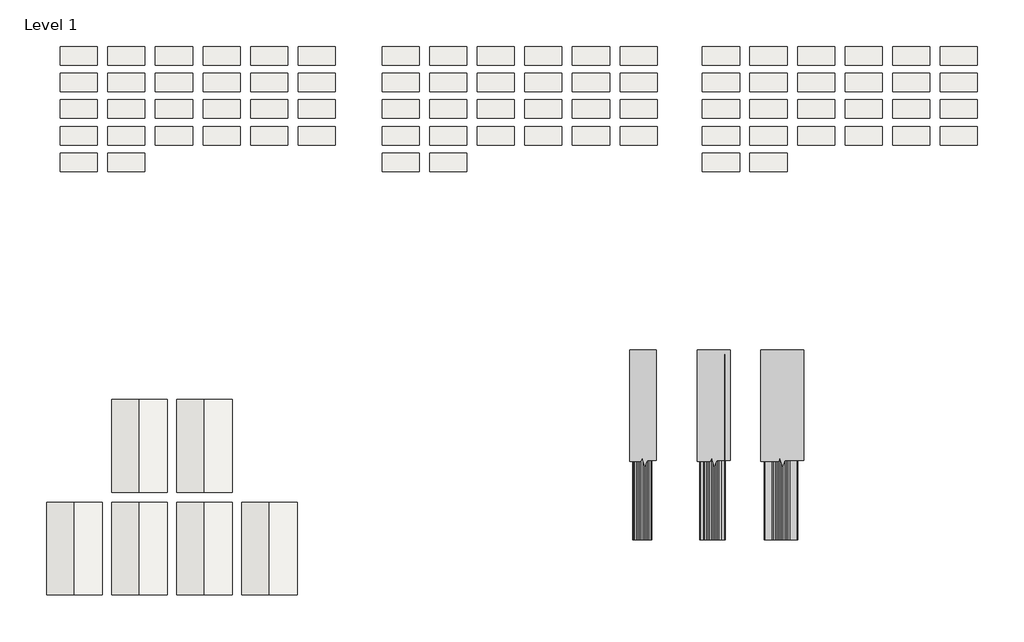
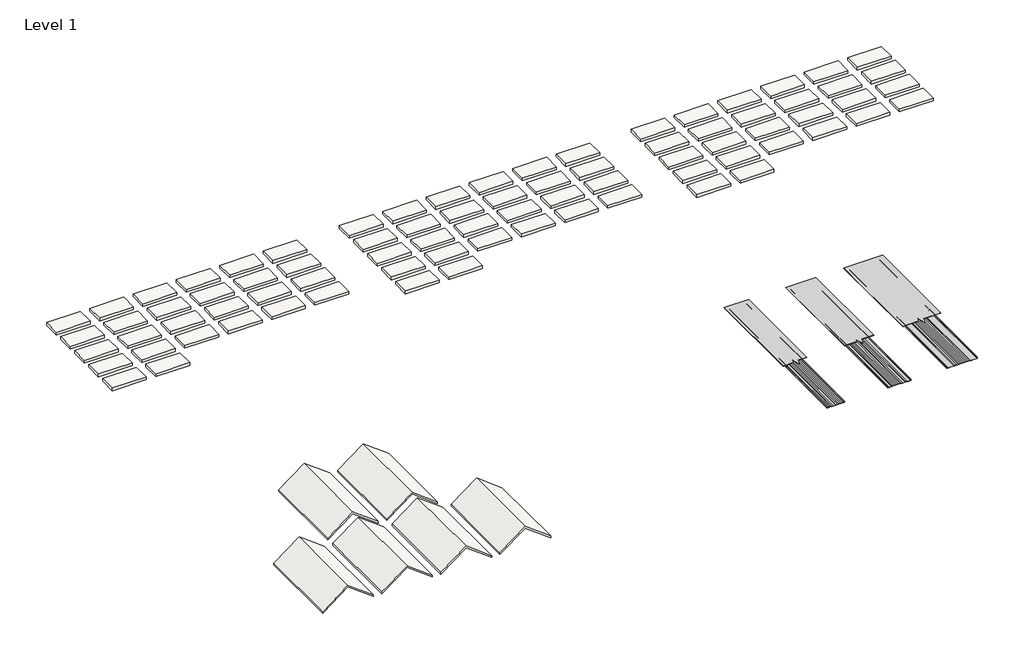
# One storey: 78 slabs, 6 proxies, 6 roofs.
"""IFC4 building model written with IfcOpenShell, lengths in millimetres."""

from ifc_helpers import new_model, si_unit, frame, origin, place, context, project, spatial, polyline, outline, extrude, transform, mapped, element, save
from components import section_mask1_section_mask_b22d5716, section_mask2_section_mask_adec629a, section_mask3_section_mask_f949df2c, proxy_a87bcd5d, proxy_86c54d77, proxy_80b159a8

model = new_model("IFC4")

# Units and contexts
model_context = context("Model", 3, world=origin())
ifc_project = project(units=[si_unit("LENGTHUNIT", "METRE", prefix="MILLI")], contexts=[model_context])

# Site, building, storey
site = spatial("IfcSite", under=ifc_project)
building = spatial("IfcBuilding", under=site)
storey = spatial("IfcBuildingStorey", under=building, Name="Level 1", Elevation=0.0)

# Proxies
placement = place(None, origin())
section_mask1_section_mask_shape = section_mask1_section_mask_b22d5716(model_context)
element("IfcBuildingElementProxy", 1, Name="Section Mask1 : Section Mask", ObjectType="Section Mask1 : Section Mask", at=placement, inside=storey, context=model_context, shape_type="MappedRepresentation", body=[
    mapped(section_mask1_section_mask_shape, transform((-2398.5062028, 52.6895817, -14.2875), x_axis=(1.0, 0.0, 0.0), y_axis=(0.0, 1.0, 0.0), z_axis=(0.0, 0.0, 1.0))),
])
section_mask2_section_mask_shape = section_mask2_section_mask_adec629a(model_context)
element("IfcBuildingElementProxy", 2, Name="Section Mask2 : Section Mask", ObjectType="Section Mask2 : Section Mask", at=placement, inside=storey, context=model_context, shape_type="MappedRepresentation", body=[
    mapped(section_mask2_section_mask_shape, transform((-1280.9062028, 52.6895817, -14.2875), x_axis=(1.0, 0.0, 0.0), y_axis=(0.0, 1.0, 0.0), z_axis=(0.0, 0.0, 1.0))),
])
section_mask3_section_mask_shape = section_mask3_section_mask_f949df2c(model_context)
element("IfcBuildingElementProxy", 3, Name="Section Mask3 : Section Mask", ObjectType="Section Mask3 : Section Mask", at=placement, inside=storey, context=model_context, shape_type="MappedRepresentation", body=[
    mapped(section_mask3_section_mask_shape, transform((-3541.5062028, 52.6895817, -14.2875), x_axis=(1.0, 0.0, 0.0), y_axis=(0.0, 1.0, 0.0), z_axis=(0.0, 0.0, 1.0))),
])
proxy_shape = proxy_a87bcd5d(model_context)
element("IfcBuildingElementProxy", 4, Name="Select-Seam_Narrow-Batten_Roofing_Panel_AEP_Span : 12\" Select Seam - Narrow Batten Roofing - 22ga", ObjectType="Select-Seam_Narrow-Batten_Roofing_Panel_AEP_Span : 12\" Select Seam - Narrow Batten Roofing - 22ga", at=placement, inside=storey, context=model_context, shape_type="MappedRepresentation", body=[
    mapped(proxy_shape, transform((4608.2102861, 2442.227806, 0.0), x_axis=(1.0, 0.0, 0.0), y_axis=(0.0, 1.0, 0.0), z_axis=(0.0, 0.0, 1.0))),
])
proxy_2_shape = proxy_86c54d77(model_context)
element("IfcBuildingElementProxy", 5, Name="Select-Seam_Narrow-Batten_Roofing_Panel_AEP_Span : 16\" Select Seam - Narrow Batten Roofing - 22ga", ObjectType="Select-Seam_Narrow-Batten_Roofing_Panel_AEP_Span : 16\" Select Seam - Narrow Batten Roofing - 22ga", at=placement, inside=storey, context=model_context, shape_type="MappedRepresentation", body=[
    mapped(proxy_2_shape, transform((5758.6489931, 2442.227806, 0.0), x_axis=(1.0, 0.0, 0.0), y_axis=(0.0, 1.0, 0.0), z_axis=(0.0, 0.0, 1.0))),
])
proxy_3_shape = proxy_80b159a8(model_context)
element("IfcBuildingElementProxy", 6, Name="Select-Seam_Narrow-Batten_Roofing_Panel_AEP_Span : 21 1/4\" Select Seam - Narrow Batten Roofing - 22ga", ObjectType="Select-Seam_Narrow-Batten_Roofing_Panel_AEP_Span : 21 1/4\" Select Seam - Narrow Batten Roofing - 22ga", at=placement, inside=storey, context=model_context, shape_type="MappedRepresentation", body=[
    mapped(proxy_3_shape, transform((6887.7832797, 2442.227806, 0.0), x_axis=(1.0, 0.0, 0.0), y_axis=(0.0, 1.0, 0.0), z_axis=(0.0, 0.0, 1.0))),
])

# Roofs
element("IfcRoof", 7, ObjectType="12\" Select Seam - Narrow Batten Roofing - 22ga", at=placement, inside=storey, context=model_context, shape_type="SweptSolid", body=[
    extrude(outline(polyline([(31.75, -3190.4750229), (374.65, -3647.6750229), (31.75, -4104.8750229), (0.0, -4104.8750229), (342.9, -3647.6750229), (0.0, -3190.4750229), (31.75, -3190.4750229)])), frame((0.0, 178.6584683, 0.0), z_axis=(0.0, 1.0, 0.0), x_axis=(0.0, 0.0, 1.0)), (0.0, 0.0, 1.0), 1524.0),
])
element("IfcRoof", 8, ObjectType="12\" Select Seam - Narrow Batten Roofing - 24ga", at=placement, inside=storey, context=model_context, shape_type="SweptSolid", body=[
    extrude(outline(polyline([(31.75, -2123.6750229), (374.65, -2580.8750229), (31.75, -3038.0750229), (0.0, -3038.0750229), (342.9, -2580.8750229), (0.0, -2123.6750229), (31.75, -2123.6750229)])), frame((0.0, 178.6584683, 0.0), z_axis=(0.0, 1.0, 0.0), x_axis=(0.0, 0.0, 1.0)), (0.0, 0.0, 1.0), 1524.0),
])
element("IfcRoof", 9, ObjectType="16\" Select Seam - Narrow Batten Roofing - 22ga", at=placement, inside=storey, context=model_context, shape_type="SweptSolid", body=[
    extrude(outline(polyline([(31.75, -4257.2750229), (374.65, -4714.4750229), (31.75, -5171.6750229), (0.0, -5171.6750229), (342.9, -4714.4750229), (0.0, -4257.2750229), (31.75, -4257.2750229)])), frame((0.0, -1510.2262262, 0.0), z_axis=(0.0, 1.0, 0.0), x_axis=(0.0, 0.0, 1.0)), (0.0, 0.0, 1.0), 1524.0),
])
element("IfcRoof", 10, ObjectType="16\" Select Seam - Narrow Batten Roofing - 24ga", at=placement, inside=storey, context=model_context, shape_type="SweptSolid", body=[
    extrude(outline(polyline([(31.75, -3190.4750229), (374.65, -3647.6750229), (31.75, -4104.8750229), (0.0, -4104.8750229), (342.9, -3647.6750229), (0.0, -3190.4750229), (31.75, -3190.4750229)])), frame((0.0, -1510.2262262, 0.0), z_axis=(0.0, 1.0, 0.0), x_axis=(0.0, 0.0, 1.0)), (0.0, 0.0, 1.0), 1524.0),
])
element("IfcRoof", 11, ObjectType="21 1/4\" Select Seam - Narrow Batten Roofing - 22ga", at=placement, inside=storey, context=model_context, shape_type="SweptSolid", body=[
    extrude(outline(polyline([(31.75, -2123.6750229), (374.65, -2580.8750229), (31.75, -3038.0750229), (0.0, -3038.0750229), (342.9, -2580.8750229), (0.0, -2123.6750229), (31.75, -2123.6750229)])), frame((0.0, -1510.2262262, 0.0), z_axis=(0.0, 1.0, 0.0), x_axis=(0.0, 0.0, 1.0)), (0.0, 0.0, 1.0), 1524.0),
])
element("IfcRoof", 12, ObjectType="21 1/4\" Select Seam - Narrow Batten Roofing - 24ga", at=placement, inside=storey, context=model_context, shape_type="SweptSolid", body=[
    extrude(outline(polyline([(31.75, -1056.8750229), (374.65, -1514.0750229), (31.75, -1971.2750229), (0.0, -1971.2750229), (342.9, -1514.0750229), (0.0, -1056.8750229), (31.75, -1056.8750229)])), frame((0.0, -1510.2262262, 0.0), z_axis=(0.0, 1.0, 0.0), x_axis=(0.0, 0.0, 1.0)), (0.0, 0.0, 1.0), 1524.0),
])

# Slabs
element("IfcSlab", 13, ObjectType="AEP Span Color Sample", at=placement, inside=storey, context=model_context, shape_type="SweptSolid", body=[
    extrude(outline(polyline([(-4336.915334, 7196.0746889), (-4946.515334, 7196.0746889), (-4946.515334, 7500.8746889), (-4336.915334, 7500.8746889), (-4336.915334, 7196.0746889)])), frame((0.0, 0.0, -50.8), z_axis=(0.0, 0.0, 1.0), x_axis=(1.0, 0.0, 0.0)), (0.0, 0.0, 1.0), 50.8),
])
element("IfcSlab", 14, ObjectType="AEP Span Color Sample", at=placement, inside=storey, context=model_context, shape_type="SweptSolid", body=[
    extrude(outline(polyline([(-3555.865334, 7196.0746889), (-4165.465334, 7196.0746889), (-4165.465334, 7500.8746889), (-3555.865334, 7500.8746889), (-3555.865334, 7196.0746889)])), frame((0.0, 0.0, -50.8), z_axis=(0.0, 0.0, 1.0), x_axis=(1.0, 0.0, 0.0)), (0.0, 0.0, 1.0), 50.8),
])
element("IfcSlab", 15, ObjectType="AEP Span Color Sample", at=placement, inside=storey, context=model_context, shape_type="SweptSolid", body=[
    extrude(outline(polyline([(-2774.815334, 7196.0746889), (-3384.415334, 7196.0746889), (-3384.415334, 7500.8746889), (-2774.815334, 7500.8746889), (-2774.815334, 7196.0746889)])), frame((0.0, 0.0, -50.8), z_axis=(0.0, 0.0, 1.0), x_axis=(1.0, 0.0, 0.0)), (0.0, 0.0, 1.0), 50.8),
])
element("IfcSlab", 16, ObjectType="AEP Span Color Sample", at=placement, inside=storey, context=model_context, shape_type="SweptSolid", body=[
    extrude(outline(polyline([(-1993.765334, 7196.0746889), (-2603.365334, 7196.0746889), (-2603.365334, 7500.8746889), (-1993.765334, 7500.8746889), (-1993.765334, 7196.0746889)])), frame((0.0, 0.0, -50.8), z_axis=(0.0, 0.0, 1.0), x_axis=(1.0, 0.0, 0.0)), (0.0, 0.0, 1.0), 50.8),
])
element("IfcSlab", 17, ObjectType="AEP Span Color Sample", at=placement, inside=storey, context=model_context, shape_type="SweptSolid", body=[
    extrude(outline(polyline([(-1212.715334, 7196.0746889), (-1822.315334, 7196.0746889), (-1822.315334, 7500.8746889), (-1212.715334, 7500.8746889), (-1212.715334, 7196.0746889)])), frame((0.0, 0.0, -50.8), z_axis=(0.0, 0.0, 1.0), x_axis=(1.0, 0.0, 0.0)), (0.0, 0.0, 1.0), 50.8),
])
element("IfcSlab", 18, ObjectType="AEP Span Color Sample", at=placement, inside=storey, context=model_context, shape_type="SweptSolid", body=[
    extrude(outline(polyline([(-431.665334, 7196.0746889), (-1041.265334, 7196.0746889), (-1041.265334, 7500.8746889), (-431.665334, 7500.8746889), (-431.665334, 7196.0746889)])), frame((0.0, 0.0, -50.8), z_axis=(0.0, 0.0, 1.0), x_axis=(1.0, 0.0, 0.0)), (0.0, 0.0, 1.0), 50.8),
])
element("IfcSlab", 19, ObjectType="AEP Span Color Sample", at=placement, inside=storey, context=model_context, shape_type="SweptSolid", body=[
    extrude(outline(polyline([(-4336.915334, 6757.9246889), (-4946.515334, 6757.9246889), (-4946.515334, 7062.7246889), (-4336.915334, 7062.7246889), (-4336.915334, 6757.9246889)])), frame((0.0, 0.0, -50.8), z_axis=(0.0, 0.0, 1.0), x_axis=(1.0, 0.0, 0.0)), (0.0, 0.0, 1.0), 50.8),
])
element("IfcSlab", 20, ObjectType="AEP Span Color Sample", at=placement, inside=storey, context=model_context, shape_type="SweptSolid", body=[
    extrude(outline(polyline([(-3555.865334, 6757.9246889), (-4165.465334, 6757.9246889), (-4165.465334, 7062.7246889), (-3555.865334, 7062.7246889), (-3555.865334, 6757.9246889)])), frame((0.0, 0.0, -50.8), z_axis=(0.0, 0.0, 1.0), x_axis=(1.0, 0.0, 0.0)), (0.0, 0.0, 1.0), 50.8),
])
element("IfcSlab", 21, ObjectType="AEP Span Color Sample", at=placement, inside=storey, context=model_context, shape_type="SweptSolid", body=[
    extrude(outline(polyline([(-2774.815334, 6757.9246889), (-3384.415334, 6757.9246889), (-3384.415334, 7062.7246889), (-2774.815334, 7062.7246889), (-2774.815334, 6757.9246889)])), frame((0.0, 0.0, -50.8), z_axis=(0.0, 0.0, 1.0), x_axis=(1.0, 0.0, 0.0)), (0.0, 0.0, 1.0), 50.8),
])
element("IfcSlab", 22, ObjectType="AEP Span Color Sample", at=placement, inside=storey, context=model_context, shape_type="SweptSolid", body=[
    extrude(outline(polyline([(-1993.765334, 6757.9246889), (-2603.365334, 6757.9246889), (-2603.365334, 7062.7246889), (-1993.765334, 7062.7246889), (-1993.765334, 6757.9246889)])), frame((0.0, 0.0, -50.8), z_axis=(0.0, 0.0, 1.0), x_axis=(1.0, 0.0, 0.0)), (0.0, 0.0, 1.0), 50.8),
])
element("IfcSlab", 23, ObjectType="AEP Span Color Sample", at=placement, inside=storey, context=model_context, shape_type="SweptSolid", body=[
    extrude(outline(polyline([(-1212.715334, 6757.9246889), (-1822.315334, 6757.9246889), (-1822.315334, 7062.7246889), (-1212.715334, 7062.7246889), (-1212.715334, 6757.9246889)])), frame((0.0, 0.0, -50.8), z_axis=(0.0, 0.0, 1.0), x_axis=(1.0, 0.0, 0.0)), (0.0, 0.0, 1.0), 50.8),
])
element("IfcSlab", 24, ObjectType="AEP Span Color Sample", at=placement, inside=storey, context=model_context, shape_type="SweptSolid", body=[
    extrude(outline(polyline([(-431.665334, 6757.9246889), (-1041.265334, 6757.9246889), (-1041.265334, 7062.7246889), (-431.665334, 7062.7246889), (-431.665334, 6757.9246889)])), frame((0.0, 0.0, -50.8), z_axis=(0.0, 0.0, 1.0), x_axis=(1.0, 0.0, 0.0)), (0.0, 0.0, 1.0), 50.8),
])
element("IfcSlab", 25, ObjectType="AEP Span Color Sample", at=placement, inside=storey, context=model_context, shape_type="SweptSolid", body=[
    extrude(outline(polyline([(-4336.915334, 6319.7746889), (-4946.515334, 6319.7746889), (-4946.515334, 6624.5746889), (-4336.915334, 6624.5746889), (-4336.915334, 6319.7746889)])), frame((0.0, 0.0, -50.8), z_axis=(0.0, 0.0, 1.0), x_axis=(1.0, 0.0, 0.0)), (0.0, 0.0, 1.0), 50.8),
])
element("IfcSlab", 26, ObjectType="AEP Span Color Sample", at=placement, inside=storey, context=model_context, shape_type="SweptSolid", body=[
    extrude(outline(polyline([(-3555.865334, 6319.7746889), (-4165.465334, 6319.7746889), (-4165.465334, 6624.5746889), (-3555.865334, 6624.5746889), (-3555.865334, 6319.7746889)])), frame((0.0, 0.0, -50.8), z_axis=(0.0, 0.0, 1.0), x_axis=(1.0, 0.0, 0.0)), (0.0, 0.0, 1.0), 50.8),
])
element("IfcSlab", 27, ObjectType="AEP Span Color Sample", at=placement, inside=storey, context=model_context, shape_type="SweptSolid", body=[
    extrude(outline(polyline([(-2774.815334, 6319.7746889), (-3384.415334, 6319.7746889), (-3384.415334, 6624.5746889), (-2774.815334, 6624.5746889), (-2774.815334, 6319.7746889)])), frame((0.0, 0.0, -50.8), z_axis=(0.0, 0.0, 1.0), x_axis=(1.0, 0.0, 0.0)), (0.0, 0.0, 1.0), 50.8),
])
element("IfcSlab", 28, ObjectType="AEP Span Color Sample", at=placement, inside=storey, context=model_context, shape_type="SweptSolid", body=[
    extrude(outline(polyline([(-1993.765334, 6319.7746889), (-2603.365334, 6319.7746889), (-2603.365334, 6624.5746889), (-1993.765334, 6624.5746889), (-1993.765334, 6319.7746889)])), frame((0.0, 0.0, -50.8), z_axis=(0.0, 0.0, 1.0), x_axis=(1.0, 0.0, 0.0)), (0.0, 0.0, 1.0), 50.8),
])
element("IfcSlab", 29, ObjectType="AEP Span Color Sample", at=placement, inside=storey, context=model_context, shape_type="SweptSolid", body=[
    extrude(outline(polyline([(-1212.715334, 6319.7746889), (-1822.315334, 6319.7746889), (-1822.315334, 6624.5746889), (-1212.715334, 6624.5746889), (-1212.715334, 6319.7746889)])), frame((0.0, 0.0, -50.8), z_axis=(0.0, 0.0, 1.0), x_axis=(1.0, 0.0, 0.0)), (0.0, 0.0, 1.0), 50.8),
])
element("IfcSlab", 30, ObjectType="AEP Span Color Sample", at=placement, inside=storey, context=model_context, shape_type="SweptSolid", body=[
    extrude(outline(polyline([(-431.665334, 6319.7746889), (-1041.265334, 6319.7746889), (-1041.265334, 6624.5746889), (-431.665334, 6624.5746889), (-431.665334, 6319.7746889)])), frame((0.0, 0.0, -50.8), z_axis=(0.0, 0.0, 1.0), x_axis=(1.0, 0.0, 0.0)), (0.0, 0.0, 1.0), 50.8),
])
element("IfcSlab", 31, ObjectType="AEP Span Color Sample", at=placement, inside=storey, context=model_context, shape_type="SweptSolid", body=[
    extrude(outline(polyline([(-4336.915334, 5881.6246889), (-4946.515334, 5881.6246889), (-4946.515334, 6186.4246889), (-4336.915334, 6186.4246889), (-4336.915334, 5881.6246889)])), frame((0.0, 0.0, -50.8), z_axis=(0.0, 0.0, 1.0), x_axis=(1.0, 0.0, 0.0)), (0.0, 0.0, 1.0), 50.8),
])
element("IfcSlab", 32, ObjectType="AEP Span Color Sample", at=placement, inside=storey, context=model_context, shape_type="SweptSolid", body=[
    extrude(outline(polyline([(-3555.865334, 5881.6246889), (-4165.465334, 5881.6246889), (-4165.465334, 6186.4246889), (-3555.865334, 6186.4246889), (-3555.865334, 5881.6246889)])), frame((0.0, 0.0, -50.8), z_axis=(0.0, 0.0, 1.0), x_axis=(1.0, 0.0, 0.0)), (0.0, 0.0, 1.0), 50.8),
])
element("IfcSlab", 33, ObjectType="AEP Span Color Sample", at=placement, inside=storey, context=model_context, shape_type="SweptSolid", body=[
    extrude(outline(polyline([(-2774.815334, 5881.6246889), (-3384.415334, 5881.6246889), (-3384.415334, 6186.4246889), (-2774.815334, 6186.4246889), (-2774.815334, 5881.6246889)])), frame((0.0, 0.0, -50.8), z_axis=(0.0, 0.0, 1.0), x_axis=(1.0, 0.0, 0.0)), (0.0, 0.0, 1.0), 50.8),
])
element("IfcSlab", 34, ObjectType="AEP Span Color Sample", at=placement, inside=storey, context=model_context, shape_type="SweptSolid", body=[
    extrude(outline(polyline([(-1993.765334, 5881.6246889), (-2603.365334, 5881.6246889), (-2603.365334, 6186.4246889), (-1993.765334, 6186.4246889), (-1993.765334, 5881.6246889)])), frame((0.0, 0.0, -50.8), z_axis=(0.0, 0.0, 1.0), x_axis=(1.0, 0.0, 0.0)), (0.0, 0.0, 1.0), 50.8),
])
element("IfcSlab", 35, ObjectType="AEP Span Color Sample", at=placement, inside=storey, context=model_context, shape_type="SweptSolid", body=[
    extrude(outline(polyline([(-1212.715334, 5881.6246889), (-1822.315334, 5881.6246889), (-1822.315334, 6186.4246889), (-1212.715334, 6186.4246889), (-1212.715334, 5881.6246889)])), frame((0.0, 0.0, -50.8), z_axis=(0.0, 0.0, 1.0), x_axis=(1.0, 0.0, 0.0)), (0.0, 0.0, 1.0), 50.8),
])
element("IfcSlab", 36, ObjectType="AEP Span Color Sample", at=placement, inside=storey, context=model_context, shape_type="SweptSolid", body=[
    extrude(outline(polyline([(-431.665334, 5881.6246889), (-1041.265334, 5881.6246889), (-1041.265334, 6186.4246889), (-431.665334, 6186.4246889), (-431.665334, 5881.6246889)])), frame((0.0, 0.0, -50.8), z_axis=(0.0, 0.0, 1.0), x_axis=(1.0, 0.0, 0.0)), (0.0, 0.0, 1.0), 50.8),
])
element("IfcSlab", 37, ObjectType="AEP Span Color Sample", at=placement, inside=storey, context=model_context, shape_type="SweptSolid", body=[
    extrude(outline(polyline([(-4336.915334, 5443.4746889), (-4946.515334, 5443.4746889), (-4946.515334, 5748.2746889), (-4336.915334, 5748.2746889), (-4336.915334, 5443.4746889)])), frame((0.0, 0.0, -50.8), z_axis=(0.0, 0.0, 1.0), x_axis=(1.0, 0.0, 0.0)), (0.0, 0.0, 1.0), 50.8),
])
element("IfcSlab", 38, ObjectType="AEP Span Color Sample", at=placement, inside=storey, context=model_context, shape_type="SweptSolid", body=[
    extrude(outline(polyline([(-3555.865334, 5443.4746889), (-4165.465334, 5443.4746889), (-4165.465334, 5748.2746889), (-3555.865334, 5748.2746889), (-3555.865334, 5443.4746889)])), frame((0.0, 0.0, -50.8), z_axis=(0.0, 0.0, 1.0), x_axis=(1.0, 0.0, 0.0)), (0.0, 0.0, 1.0), 50.8),
])
element("IfcSlab", 39, ObjectType="AEP Span Color Sample", at=placement, inside=storey, context=model_context, shape_type="SweptSolid", body=[
    extrude(outline(polyline([(946.284666, 7196.0746889), (336.684666, 7196.0746889), (336.684666, 7500.8746889), (946.284666, 7500.8746889), (946.284666, 7196.0746889)])), frame((0.0, 0.0, -50.8), z_axis=(0.0, 0.0, 1.0), x_axis=(1.0, 0.0, 0.0)), (0.0, 0.0, 1.0), 50.8),
])
element("IfcSlab", 40, ObjectType="AEP Span Color Sample", at=placement, inside=storey, context=model_context, shape_type="SweptSolid", body=[
    extrude(outline(polyline([(1727.334666, 7196.0746889), (1117.734666, 7196.0746889), (1117.734666, 7500.8746889), (1727.334666, 7500.8746889), (1727.334666, 7196.0746889)])), frame((0.0, 0.0, -50.8), z_axis=(0.0, 0.0, 1.0), x_axis=(1.0, 0.0, 0.0)), (0.0, 0.0, 1.0), 50.8),
])
element("IfcSlab", 41, ObjectType="AEP Span Color Sample", at=placement, inside=storey, context=model_context, shape_type="SweptSolid", body=[
    extrude(outline(polyline([(2508.384666, 7196.0746889), (1898.784666, 7196.0746889), (1898.784666, 7500.8746889), (2508.384666, 7500.8746889), (2508.384666, 7196.0746889)])), frame((0.0, 0.0, -50.8), z_axis=(0.0, 0.0, 1.0), x_axis=(1.0, 0.0, 0.0)), (0.0, 0.0, 1.0), 50.8),
])
element("IfcSlab", 42, ObjectType="AEP Span Color Sample", at=placement, inside=storey, context=model_context, shape_type="SweptSolid", body=[
    extrude(outline(polyline([(3289.434666, 7196.0746889), (2679.834666, 7196.0746889), (2679.834666, 7500.8746889), (3289.434666, 7500.8746889), (3289.434666, 7196.0746889)])), frame((0.0, 0.0, -50.8), z_axis=(0.0, 0.0, 1.0), x_axis=(1.0, 0.0, 0.0)), (0.0, 0.0, 1.0), 50.8),
])
element("IfcSlab", 43, ObjectType="AEP Span Color Sample", at=placement, inside=storey, context=model_context, shape_type="SweptSolid", body=[
    extrude(outline(polyline([(4070.484666, 7196.0746889), (3460.884666, 7196.0746889), (3460.884666, 7500.8746889), (4070.484666, 7500.8746889), (4070.484666, 7196.0746889)])), frame((0.0, 0.0, -50.8), z_axis=(0.0, 0.0, 1.0), x_axis=(1.0, 0.0, 0.0)), (0.0, 0.0, 1.0), 50.8),
])
element("IfcSlab", 44, ObjectType="AEP Span Color Sample", at=placement, inside=storey, context=model_context, shape_type="SweptSolid", body=[
    extrude(outline(polyline([(4851.534666, 7196.0746889), (4241.934666, 7196.0746889), (4241.934666, 7500.8746889), (4851.534666, 7500.8746889), (4851.534666, 7196.0746889)])), frame((0.0, 0.0, -50.8), z_axis=(0.0, 0.0, 1.0), x_axis=(1.0, 0.0, 0.0)), (0.0, 0.0, 1.0), 50.8),
])
element("IfcSlab", 45, ObjectType="AEP Span Color Sample", at=placement, inside=storey, context=model_context, shape_type="SweptSolid", body=[
    extrude(outline(polyline([(946.284666, 6757.9246889), (336.684666, 6757.9246889), (336.684666, 7062.7246889), (946.284666, 7062.7246889), (946.284666, 6757.9246889)])), frame((0.0, 0.0, -50.8), z_axis=(0.0, 0.0, 1.0), x_axis=(1.0, 0.0, 0.0)), (0.0, 0.0, 1.0), 50.8),
])
element("IfcSlab", 46, ObjectType="AEP Span Color Sample", at=placement, inside=storey, context=model_context, shape_type="SweptSolid", body=[
    extrude(outline(polyline([(1727.334666, 6757.9246889), (1117.734666, 6757.9246889), (1117.734666, 7062.7246889), (1727.334666, 7062.7246889), (1727.334666, 6757.9246889)])), frame((0.0, 0.0, -50.8), z_axis=(0.0, 0.0, 1.0), x_axis=(1.0, 0.0, 0.0)), (0.0, 0.0, 1.0), 50.8),
])
element("IfcSlab", 47, ObjectType="AEP Span Color Sample", at=placement, inside=storey, context=model_context, shape_type="SweptSolid", body=[
    extrude(outline(polyline([(2508.384666, 6757.9246889), (1898.784666, 6757.9246889), (1898.784666, 7062.7246889), (2508.384666, 7062.7246889), (2508.384666, 6757.9246889)])), frame((0.0, 0.0, -50.8), z_axis=(0.0, 0.0, 1.0), x_axis=(1.0, 0.0, 0.0)), (0.0, 0.0, 1.0), 50.8),
])
element("IfcSlab", 48, ObjectType="AEP Span Color Sample", at=placement, inside=storey, context=model_context, shape_type="SweptSolid", body=[
    extrude(outline(polyline([(3289.434666, 6757.9246889), (2679.834666, 6757.9246889), (2679.834666, 7062.7246889), (3289.434666, 7062.7246889), (3289.434666, 6757.9246889)])), frame((0.0, 0.0, -50.8), z_axis=(0.0, 0.0, 1.0), x_axis=(1.0, 0.0, 0.0)), (0.0, 0.0, 1.0), 50.8),
])
element("IfcSlab", 49, ObjectType="AEP Span Color Sample", at=placement, inside=storey, context=model_context, shape_type="SweptSolid", body=[
    extrude(outline(polyline([(4070.484666, 6757.9246889), (3460.884666, 6757.9246889), (3460.884666, 7062.7246889), (4070.484666, 7062.7246889), (4070.484666, 6757.9246889)])), frame((0.0, 0.0, -50.8), z_axis=(0.0, 0.0, 1.0), x_axis=(1.0, 0.0, 0.0)), (0.0, 0.0, 1.0), 50.8),
])
element("IfcSlab", 50, ObjectType="AEP Span Color Sample", at=placement, inside=storey, context=model_context, shape_type="SweptSolid", body=[
    extrude(outline(polyline([(4851.534666, 6757.9246889), (4241.934666, 6757.9246889), (4241.934666, 7062.7246889), (4851.534666, 7062.7246889), (4851.534666, 6757.9246889)])), frame((0.0, 0.0, -50.8), z_axis=(0.0, 0.0, 1.0), x_axis=(1.0, 0.0, 0.0)), (0.0, 0.0, 1.0), 50.8),
])
element("IfcSlab", 51, ObjectType="AEP Span Color Sample", at=placement, inside=storey, context=model_context, shape_type="SweptSolid", body=[
    extrude(outline(polyline([(946.284666, 6319.7746889), (336.684666, 6319.7746889), (336.684666, 6624.5746889), (946.284666, 6624.5746889), (946.284666, 6319.7746889)])), frame((0.0, 0.0, -50.8), z_axis=(0.0, 0.0, 1.0), x_axis=(1.0, 0.0, 0.0)), (0.0, 0.0, 1.0), 50.8),
])
element("IfcSlab", 52, ObjectType="AEP Span Color Sample", at=placement, inside=storey, context=model_context, shape_type="SweptSolid", body=[
    extrude(outline(polyline([(1727.334666, 6319.7746889), (1117.734666, 6319.7746889), (1117.734666, 6624.5746889), (1727.334666, 6624.5746889), (1727.334666, 6319.7746889)])), frame((0.0, 0.0, -50.8), z_axis=(0.0, 0.0, 1.0), x_axis=(1.0, 0.0, 0.0)), (0.0, 0.0, 1.0), 50.8),
])
element("IfcSlab", 53, ObjectType="AEP Span Color Sample", at=placement, inside=storey, context=model_context, shape_type="SweptSolid", body=[
    extrude(outline(polyline([(2508.384666, 6319.7746889), (1898.784666, 6319.7746889), (1898.784666, 6624.5746889), (2508.384666, 6624.5746889), (2508.384666, 6319.7746889)])), frame((0.0, 0.0, -50.8), z_axis=(0.0, 0.0, 1.0), x_axis=(1.0, 0.0, 0.0)), (0.0, 0.0, 1.0), 50.8),
])
element("IfcSlab", 54, ObjectType="AEP Span Color Sample", at=placement, inside=storey, context=model_context, shape_type="SweptSolid", body=[
    extrude(outline(polyline([(3289.434666, 6319.7746889), (2679.834666, 6319.7746889), (2679.834666, 6624.5746889), (3289.434666, 6624.5746889), (3289.434666, 6319.7746889)])), frame((0.0, 0.0, -50.8), z_axis=(0.0, 0.0, 1.0), x_axis=(1.0, 0.0, 0.0)), (0.0, 0.0, 1.0), 50.8),
])
element("IfcSlab", 55, ObjectType="AEP Span Color Sample", at=placement, inside=storey, context=model_context, shape_type="SweptSolid", body=[
    extrude(outline(polyline([(4070.484666, 6319.7746889), (3460.884666, 6319.7746889), (3460.884666, 6624.5746889), (4070.484666, 6624.5746889), (4070.484666, 6319.7746889)])), frame((0.0, 0.0, -50.8), z_axis=(0.0, 0.0, 1.0), x_axis=(1.0, 0.0, 0.0)), (0.0, 0.0, 1.0), 50.8),
])
element("IfcSlab", 56, ObjectType="AEP Span Color Sample", at=placement, inside=storey, context=model_context, shape_type="SweptSolid", body=[
    extrude(outline(polyline([(4851.534666, 6319.7746889), (4241.934666, 6319.7746889), (4241.934666, 6624.5746889), (4851.534666, 6624.5746889), (4851.534666, 6319.7746889)])), frame((0.0, 0.0, -50.8), z_axis=(0.0, 0.0, 1.0), x_axis=(1.0, 0.0, 0.0)), (0.0, 0.0, 1.0), 50.8),
])
element("IfcSlab", 57, ObjectType="AEP Span Color Sample", at=placement, inside=storey, context=model_context, shape_type="SweptSolid", body=[
    extrude(outline(polyline([(946.284666, 5881.6246889), (336.684666, 5881.6246889), (336.684666, 6186.4246889), (946.284666, 6186.4246889), (946.284666, 5881.6246889)])), frame((0.0, 0.0, -50.8), z_axis=(0.0, 0.0, 1.0), x_axis=(1.0, 0.0, 0.0)), (0.0, 0.0, 1.0), 50.8),
])
element("IfcSlab", 58, ObjectType="AEP Span Color Sample", at=placement, inside=storey, context=model_context, shape_type="SweptSolid", body=[
    extrude(outline(polyline([(1727.334666, 5881.6246889), (1117.734666, 5881.6246889), (1117.734666, 6186.4246889), (1727.334666, 6186.4246889), (1727.334666, 5881.6246889)])), frame((0.0, 0.0, -50.8), z_axis=(0.0, 0.0, 1.0), x_axis=(1.0, 0.0, 0.0)), (0.0, 0.0, 1.0), 50.8),
])
element("IfcSlab", 59, ObjectType="AEP Span Color Sample", at=placement, inside=storey, context=model_context, shape_type="SweptSolid", body=[
    extrude(outline(polyline([(2508.384666, 5881.6246889), (1898.784666, 5881.6246889), (1898.784666, 6186.4246889), (2508.384666, 6186.4246889), (2508.384666, 5881.6246889)])), frame((0.0, 0.0, -50.8), z_axis=(0.0, 0.0, 1.0), x_axis=(1.0, 0.0, 0.0)), (0.0, 0.0, 1.0), 50.8),
])
element("IfcSlab", 60, ObjectType="AEP Span Color Sample", at=placement, inside=storey, context=model_context, shape_type="SweptSolid", body=[
    extrude(outline(polyline([(3289.434666, 5881.6246889), (2679.834666, 5881.6246889), (2679.834666, 6186.4246889), (3289.434666, 6186.4246889), (3289.434666, 5881.6246889)])), frame((0.0, 0.0, -50.8), z_axis=(0.0, 0.0, 1.0), x_axis=(1.0, 0.0, 0.0)), (0.0, 0.0, 1.0), 50.8),
])
element("IfcSlab", 61, ObjectType="AEP Span Color Sample", at=placement, inside=storey, context=model_context, shape_type="SweptSolid", body=[
    extrude(outline(polyline([(4070.484666, 5881.6246889), (3460.884666, 5881.6246889), (3460.884666, 6186.4246889), (4070.484666, 6186.4246889), (4070.484666, 5881.6246889)])), frame((0.0, 0.0, -50.8), z_axis=(0.0, 0.0, 1.0), x_axis=(1.0, 0.0, 0.0)), (0.0, 0.0, 1.0), 50.8),
])
element("IfcSlab", 62, ObjectType="AEP Span Color Sample", at=placement, inside=storey, context=model_context, shape_type="SweptSolid", body=[
    extrude(outline(polyline([(4851.534666, 5881.6246889), (4241.934666, 5881.6246889), (4241.934666, 6186.4246889), (4851.534666, 6186.4246889), (4851.534666, 5881.6246889)])), frame((0.0, 0.0, -50.8), z_axis=(0.0, 0.0, 1.0), x_axis=(1.0, 0.0, 0.0)), (0.0, 0.0, 1.0), 50.8),
])
element("IfcSlab", 63, ObjectType="AEP Span Color Sample", at=placement, inside=storey, context=model_context, shape_type="SweptSolid", body=[
    extrude(outline(polyline([(946.284666, 5443.4746889), (336.684666, 5443.4746889), (336.684666, 5748.2746889), (946.284666, 5748.2746889), (946.284666, 5443.4746889)])), frame((0.0, 0.0, -50.8), z_axis=(0.0, 0.0, 1.0), x_axis=(1.0, 0.0, 0.0)), (0.0, 0.0, 1.0), 50.8),
])
element("IfcSlab", 64, ObjectType="AEP Span Color Sample", at=placement, inside=storey, context=model_context, shape_type="SweptSolid", body=[
    extrude(outline(polyline([(1727.334666, 5443.4746889), (1117.734666, 5443.4746889), (1117.734666, 5748.2746889), (1727.334666, 5748.2746889), (1727.334666, 5443.4746889)])), frame((0.0, 0.0, -50.8), z_axis=(0.0, 0.0, 1.0), x_axis=(1.0, 0.0, 0.0)), (0.0, 0.0, 1.0), 50.8),
])
element("IfcSlab", 65, ObjectType="AEP Span Color Sample", at=placement, inside=storey, context=model_context, shape_type="SweptSolid", body=[
    extrude(outline(polyline([(6204.084666, 7196.0746889), (5594.484666, 7196.0746889), (5594.484666, 7500.8746889), (6204.084666, 7500.8746889), (6204.084666, 7196.0746889)])), frame((0.0, 0.0, -50.8), z_axis=(0.0, 0.0, 1.0), x_axis=(1.0, 0.0, 0.0)), (0.0, 0.0, 1.0), 50.8),
])
element("IfcSlab", 66, ObjectType="AEP Span Color Sample", at=placement, inside=storey, context=model_context, shape_type="SweptSolid", body=[
    extrude(outline(polyline([(6985.134666, 7196.0746889), (6375.534666, 7196.0746889), (6375.534666, 7500.8746889), (6985.134666, 7500.8746889), (6985.134666, 7196.0746889)])), frame((0.0, 0.0, -50.8), z_axis=(0.0, 0.0, 1.0), x_axis=(1.0, 0.0, 0.0)), (0.0, 0.0, 1.0), 50.8),
])
element("IfcSlab", 67, ObjectType="AEP Span Color Sample", at=placement, inside=storey, context=model_context, shape_type="SweptSolid", body=[
    extrude(outline(polyline([(7766.184666, 7196.0746889), (7156.584666, 7196.0746889), (7156.584666, 7500.8746889), (7766.184666, 7500.8746889), (7766.184666, 7196.0746889)])), frame((0.0, 0.0, -50.8), z_axis=(0.0, 0.0, 1.0), x_axis=(1.0, 0.0, 0.0)), (0.0, 0.0, 1.0), 50.8),
])
element("IfcSlab", 68, ObjectType="AEP Span Color Sample", at=placement, inside=storey, context=model_context, shape_type="SweptSolid", body=[
    extrude(outline(polyline([(8547.234666, 7196.0746889), (7937.634666, 7196.0746889), (7937.634666, 7500.8746889), (8547.234666, 7500.8746889), (8547.234666, 7196.0746889)])), frame((0.0, 0.0, -50.8), z_axis=(0.0, 0.0, 1.0), x_axis=(1.0, 0.0, 0.0)), (0.0, 0.0, 1.0), 50.8),
])
element("IfcSlab", 69, ObjectType="AEP Span Color Sample", at=placement, inside=storey, context=model_context, shape_type="SweptSolid", body=[
    extrude(outline(polyline([(9328.284666, 7196.0746889), (8718.684666, 7196.0746889), (8718.684666, 7500.8746889), (9328.284666, 7500.8746889), (9328.284666, 7196.0746889)])), frame((0.0, 0.0, -50.8), z_axis=(0.0, 0.0, 1.0), x_axis=(1.0, 0.0, 0.0)), (0.0, 0.0, 1.0), 50.8),
])
element("IfcSlab", 70, ObjectType="AEP Span Color Sample", at=placement, inside=storey, context=model_context, shape_type="SweptSolid", body=[
    extrude(outline(polyline([(10109.334666, 7196.0746889), (9499.734666, 7196.0746889), (9499.734666, 7500.8746889), (10109.334666, 7500.8746889), (10109.334666, 7196.0746889)])), frame((0.0, 0.0, -50.8), z_axis=(0.0, 0.0, 1.0), x_axis=(1.0, 0.0, 0.0)), (0.0, 0.0, 1.0), 50.8),
])
element("IfcSlab", 71, ObjectType="AEP Span Color Sample", at=placement, inside=storey, context=model_context, shape_type="SweptSolid", body=[
    extrude(outline(polyline([(6204.084666, 6757.9246889), (5594.484666, 6757.9246889), (5594.484666, 7062.7246889), (6204.084666, 7062.7246889), (6204.084666, 6757.9246889)])), frame((0.0, 0.0, -50.8), z_axis=(0.0, 0.0, 1.0), x_axis=(1.0, 0.0, 0.0)), (0.0, 0.0, 1.0), 50.8),
])
element("IfcSlab", 72, ObjectType="AEP Span Color Sample", at=placement, inside=storey, context=model_context, shape_type="SweptSolid", body=[
    extrude(outline(polyline([(6985.134666, 6757.9246889), (6375.534666, 6757.9246889), (6375.534666, 7062.7246889), (6985.134666, 7062.7246889), (6985.134666, 6757.9246889)])), frame((0.0, 0.0, -50.8), z_axis=(0.0, 0.0, 1.0), x_axis=(1.0, 0.0, 0.0)), (0.0, 0.0, 1.0), 50.8),
])
element("IfcSlab", 73, ObjectType="AEP Span Color Sample", at=placement, inside=storey, context=model_context, shape_type="SweptSolid", body=[
    extrude(outline(polyline([(7766.184666, 6757.9246889), (7156.584666, 6757.9246889), (7156.584666, 7062.7246889), (7766.184666, 7062.7246889), (7766.184666, 6757.9246889)])), frame((0.0, 0.0, -50.8), z_axis=(0.0, 0.0, 1.0), x_axis=(1.0, 0.0, 0.0)), (0.0, 0.0, 1.0), 50.8),
])
element("IfcSlab", 74, ObjectType="AEP Span Color Sample", at=placement, inside=storey, context=model_context, shape_type="SweptSolid", body=[
    extrude(outline(polyline([(8547.234666, 6757.9246889), (7937.634666, 6757.9246889), (7937.634666, 7062.7246889), (8547.234666, 7062.7246889), (8547.234666, 6757.9246889)])), frame((0.0, 0.0, -50.8), z_axis=(0.0, 0.0, 1.0), x_axis=(1.0, 0.0, 0.0)), (0.0, 0.0, 1.0), 50.8),
])
element("IfcSlab", 75, ObjectType="AEP Span Color Sample", at=placement, inside=storey, context=model_context, shape_type="SweptSolid", body=[
    extrude(outline(polyline([(9328.284666, 6757.9246889), (8718.684666, 6757.9246889), (8718.684666, 7062.7246889), (9328.284666, 7062.7246889), (9328.284666, 6757.9246889)])), frame((0.0, 0.0, -50.8), z_axis=(0.0, 0.0, 1.0), x_axis=(1.0, 0.0, 0.0)), (0.0, 0.0, 1.0), 50.8),
])
element("IfcSlab", 76, ObjectType="AEP Span Color Sample", at=placement, inside=storey, context=model_context, shape_type="SweptSolid", body=[
    extrude(outline(polyline([(10109.334666, 6757.9246889), (9499.734666, 6757.9246889), (9499.734666, 7062.7246889), (10109.334666, 7062.7246889), (10109.334666, 6757.9246889)])), frame((0.0, 0.0, -50.8), z_axis=(0.0, 0.0, 1.0), x_axis=(1.0, 0.0, 0.0)), (0.0, 0.0, 1.0), 50.8),
])
element("IfcSlab", 77, ObjectType="AEP Span Color Sample", at=placement, inside=storey, context=model_context, shape_type="SweptSolid", body=[
    extrude(outline(polyline([(6204.084666, 6319.7746889), (5594.484666, 6319.7746889), (5594.484666, 6624.5746889), (6204.084666, 6624.5746889), (6204.084666, 6319.7746889)])), frame((0.0, 0.0, -50.8), z_axis=(0.0, 0.0, 1.0), x_axis=(1.0, 0.0, 0.0)), (0.0, 0.0, 1.0), 50.8),
])
element("IfcSlab", 78, ObjectType="AEP Span Color Sample", at=placement, inside=storey, context=model_context, shape_type="SweptSolid", body=[
    extrude(outline(polyline([(6985.134666, 6319.7746889), (6375.534666, 6319.7746889), (6375.534666, 6624.5746889), (6985.134666, 6624.5746889), (6985.134666, 6319.7746889)])), frame((0.0, 0.0, -50.8), z_axis=(0.0, 0.0, 1.0), x_axis=(1.0, 0.0, 0.0)), (0.0, 0.0, 1.0), 50.8),
])
element("IfcSlab", 79, ObjectType="AEP Span Color Sample", at=placement, inside=storey, context=model_context, shape_type="SweptSolid", body=[
    extrude(outline(polyline([(7766.184666, 6319.7746889), (7156.584666, 6319.7746889), (7156.584666, 6624.5746889), (7766.184666, 6624.5746889), (7766.184666, 6319.7746889)])), frame((0.0, 0.0, -50.8), z_axis=(0.0, 0.0, 1.0), x_axis=(1.0, 0.0, 0.0)), (0.0, 0.0, 1.0), 50.8),
])
element("IfcSlab", 80, ObjectType="AEP Span Color Sample", at=placement, inside=storey, context=model_context, shape_type="SweptSolid", body=[
    extrude(outline(polyline([(8547.234666, 6319.7746889), (7937.634666, 6319.7746889), (7937.634666, 6624.5746889), (8547.234666, 6624.5746889), (8547.234666, 6319.7746889)])), frame((0.0, 0.0, -50.8), z_axis=(0.0, 0.0, 1.0), x_axis=(1.0, 0.0, 0.0)), (0.0, 0.0, 1.0), 50.8),
])
element("IfcSlab", 81, ObjectType="AEP Span Color Sample", at=placement, inside=storey, context=model_context, shape_type="SweptSolid", body=[
    extrude(outline(polyline([(9328.284666, 6319.7746889), (8718.684666, 6319.7746889), (8718.684666, 6624.5746889), (9328.284666, 6624.5746889), (9328.284666, 6319.7746889)])), frame((0.0, 0.0, -50.8), z_axis=(0.0, 0.0, 1.0), x_axis=(1.0, 0.0, 0.0)), (0.0, 0.0, 1.0), 50.8),
])
element("IfcSlab", 82, ObjectType="AEP Span Color Sample", at=placement, inside=storey, context=model_context, shape_type="SweptSolid", body=[
    extrude(outline(polyline([(10109.334666, 6319.7746889), (9499.734666, 6319.7746889), (9499.734666, 6624.5746889), (10109.334666, 6624.5746889), (10109.334666, 6319.7746889)])), frame((0.0, 0.0, -50.8), z_axis=(0.0, 0.0, 1.0), x_axis=(1.0, 0.0, 0.0)), (0.0, 0.0, 1.0), 50.8),
])
element("IfcSlab", 83, ObjectType="AEP Span Color Sample", at=placement, inside=storey, context=model_context, shape_type="SweptSolid", body=[
    extrude(outline(polyline([(6204.084666, 5881.6246889), (5594.484666, 5881.6246889), (5594.484666, 6186.4246889), (6204.084666, 6186.4246889), (6204.084666, 5881.6246889)])), frame((0.0, 0.0, -50.8), z_axis=(0.0, 0.0, 1.0), x_axis=(1.0, 0.0, 0.0)), (0.0, 0.0, 1.0), 50.8),
])
element("IfcSlab", 84, ObjectType="AEP Span Color Sample", at=placement, inside=storey, context=model_context, shape_type="SweptSolid", body=[
    extrude(outline(polyline([(6985.134666, 5881.6246889), (6375.534666, 5881.6246889), (6375.534666, 6186.4246889), (6985.134666, 6186.4246889), (6985.134666, 5881.6246889)])), frame((0.0, 0.0, -50.8), z_axis=(0.0, 0.0, 1.0), x_axis=(1.0, 0.0, 0.0)), (0.0, 0.0, 1.0), 50.8),
])
element("IfcSlab", 85, ObjectType="AEP Span Color Sample", at=placement, inside=storey, context=model_context, shape_type="SweptSolid", body=[
    extrude(outline(polyline([(7766.184666, 5881.6246889), (7156.584666, 5881.6246889), (7156.584666, 6186.4246889), (7766.184666, 6186.4246889), (7766.184666, 5881.6246889)])), frame((0.0, 0.0, -50.8), z_axis=(0.0, 0.0, 1.0), x_axis=(1.0, 0.0, 0.0)), (0.0, 0.0, 1.0), 50.8),
])
element("IfcSlab", 86, ObjectType="AEP Span Color Sample", at=placement, inside=storey, context=model_context, shape_type="SweptSolid", body=[
    extrude(outline(polyline([(8547.234666, 5881.6246889), (7937.634666, 5881.6246889), (7937.634666, 6186.4246889), (8547.234666, 6186.4246889), (8547.234666, 5881.6246889)])), frame((0.0, 0.0, -50.8), z_axis=(0.0, 0.0, 1.0), x_axis=(1.0, 0.0, 0.0)), (0.0, 0.0, 1.0), 50.8),
])
element("IfcSlab", 87, ObjectType="AEP Span Color Sample", at=placement, inside=storey, context=model_context, shape_type="SweptSolid", body=[
    extrude(outline(polyline([(9328.284666, 5881.6246889), (8718.684666, 5881.6246889), (8718.684666, 6186.4246889), (9328.284666, 6186.4246889), (9328.284666, 5881.6246889)])), frame((0.0, 0.0, -50.8), z_axis=(0.0, 0.0, 1.0), x_axis=(1.0, 0.0, 0.0)), (0.0, 0.0, 1.0), 50.8),
])
element("IfcSlab", 88, ObjectType="AEP Span Color Sample", at=placement, inside=storey, context=model_context, shape_type="SweptSolid", body=[
    extrude(outline(polyline([(10109.334666, 5881.6246889), (9499.734666, 5881.6246889), (9499.734666, 6186.4246889), (10109.334666, 6186.4246889), (10109.334666, 5881.6246889)])), frame((0.0, 0.0, -50.8), z_axis=(0.0, 0.0, 1.0), x_axis=(1.0, 0.0, 0.0)), (0.0, 0.0, 1.0), 50.8),
])
element("IfcSlab", 89, ObjectType="AEP Span Color Sample", at=placement, inside=storey, context=model_context, shape_type="SweptSolid", body=[
    extrude(outline(polyline([(6204.084666, 5443.4746889), (5594.484666, 5443.4746889), (5594.484666, 5748.2746889), (6204.084666, 5748.2746889), (6204.084666, 5443.4746889)])), frame((0.0, 0.0, -50.8), z_axis=(0.0, 0.0, 1.0), x_axis=(1.0, 0.0, 0.0)), (0.0, 0.0, 1.0), 50.8),
])
element("IfcSlab", 90, ObjectType="AEP Span Color Sample", at=placement, inside=storey, context=model_context, shape_type="SweptSolid", body=[
    extrude(outline(polyline([(6985.134666, 5443.4746889), (6375.534666, 5443.4746889), (6375.534666, 5748.2746889), (6985.134666, 5748.2746889), (6985.134666, 5443.4746889)])), frame((0.0, 0.0, -50.8), z_axis=(0.0, 0.0, 1.0), x_axis=(1.0, 0.0, 0.0)), (0.0, 0.0, 1.0), 50.8),
])

save(model, "model.ifc")
